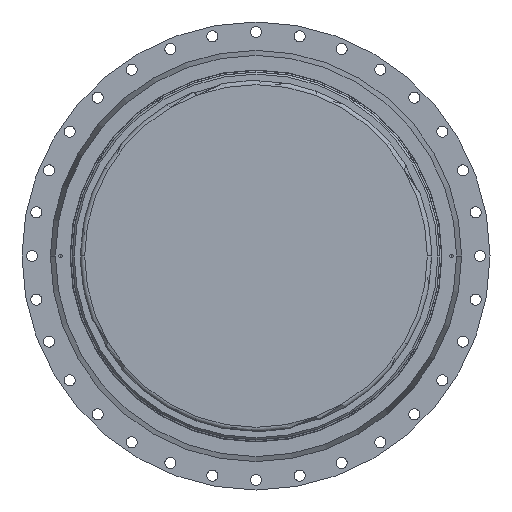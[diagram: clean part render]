
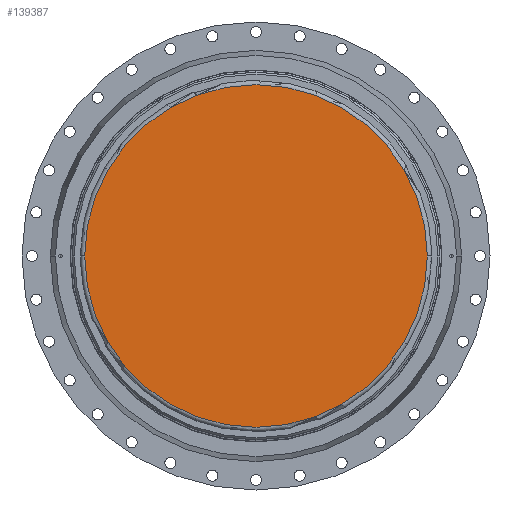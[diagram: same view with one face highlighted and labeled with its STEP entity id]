
A CAD part, front view. The second image highlights one B-rep face of the part: STEP entity #139387.
In plain terms, the highlighted planar face has unit normal (0, -1, 0).
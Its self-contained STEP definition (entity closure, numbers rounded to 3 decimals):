
#6633 = DIRECTION ( 'NONE',  ( 0., -1., 0. ) ) ;
#15462 = ORIENTED_EDGE ( 'NONE', *, *, #102603, .T. ) ;
#16841 = EDGE_LOOP ( 'NONE', ( #77558, #15462 ) ) ;
#22021 = CIRCLE ( 'NONE', #91848, 512.5 ) ;
#23226 = CARTESIAN_POINT ( 'NONE',  ( 0., 0., 0. ) ) ;
#35920 = DIRECTION ( 'NONE',  ( 0., 0., 1. ) ) ;
#39289 = CARTESIAN_POINT ( 'NONE',  ( 0., 0., 0. ) ) ;
#52007 = DIRECTION ( 'NONE',  ( 0., 0., 1. ) ) ;
#55281 = CIRCLE ( 'NONE', #99912, 512.5 ) ;
#64083 = PLANE ( 'NONE',  #101141 ) ;
#77558 = ORIENTED_EDGE ( 'NONE', *, *, #127779, .T. ) ;
#81879 = CARTESIAN_POINT ( 'NONE',  ( 0., 0., 0. ) ) ;
#90505 = VERTEX_POINT ( 'NONE', #159312 ) ;
#91848 = AXIS2_PLACEMENT_3D ( 'NONE', #81879, #6633, #94520 ) ;
#92012 = VERTEX_POINT ( 'NONE', #95791 ) ;
#94520 = DIRECTION ( 'NONE',  ( 0., 0., 1. ) ) ;
#95791 = CARTESIAN_POINT ( 'NONE',  ( -512.5, 0., 0. ) ) ;
#99912 = AXIS2_PLACEMENT_3D ( 'NONE', #23226, #111343, #35920 ) ;
#101141 = AXIS2_PLACEMENT_3D ( 'NONE', #39289, #127338, #52007 ) ;
#102603 = EDGE_CURVE ( 'NONE', #90505, #92012, #55281, .T. ) ;
#111343 = DIRECTION ( 'NONE',  ( 0., -1., 0. ) ) ;
#127338 = DIRECTION ( 'NONE',  ( 0., -1., 0. ) ) ;
#127779 = EDGE_CURVE ( 'NONE', #92012, #90505, #22021, .T. ) ;
#139387 = ADVANCED_FACE ( 'NONE', ( #150426 ), #64083, .T. ) ;
#150426 = FACE_OUTER_BOUND ( 'NONE', #16841, .T. ) ;
#159312 = CARTESIAN_POINT ( 'NONE',  ( 512.5, 0., 0. ) ) ;
